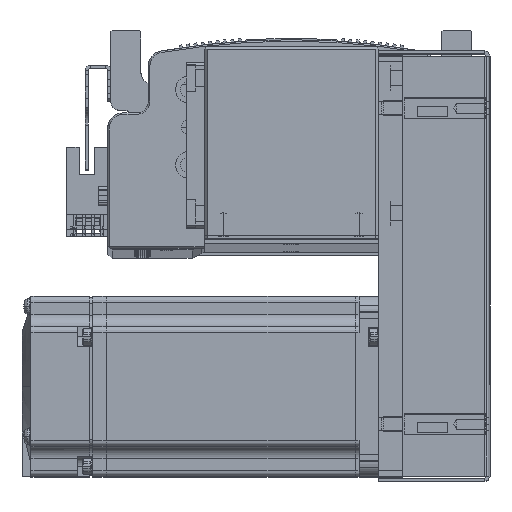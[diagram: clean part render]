
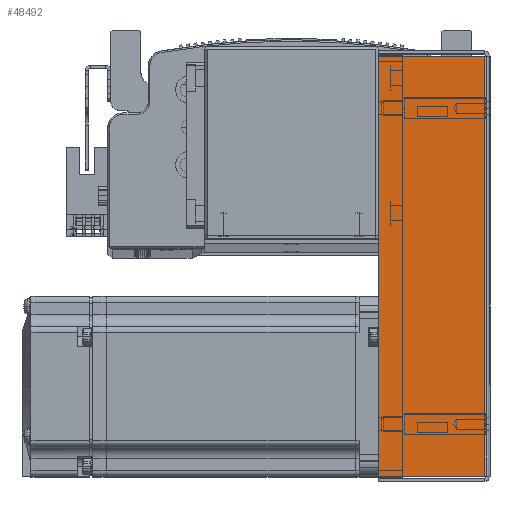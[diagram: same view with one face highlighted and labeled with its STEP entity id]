
A CAD part, top view. The second image highlights one B-rep face of the part: STEP entity #48492.
In plain terms, the highlighted planar face has unit normal (0, 0, 1).
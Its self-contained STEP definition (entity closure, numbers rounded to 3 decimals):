
#5330 = CARTESIAN_POINT ( 'NONE',  ( -69.793, 0.737, 33.5 ) ) ;
#5423 = CARTESIAN_POINT ( 'NONE',  ( 69.793, 36., 33.5 ) ) ;
#5445 = CARTESIAN_POINT ( 'NONE',  ( -69.793, 36., 33.5 ) ) ;
#5501 = CARTESIAN_POINT ( 'NONE',  ( 69.793, 0.737, 33.5 ) ) ;
#25155 = EDGE_CURVE ( 'NONE', #89827, #89834, #25574, .T. ) ;
#25262 = EDGE_CURVE ( 'NONE', #89827, #89756, #25703, .T. ) ;
#25266 = EDGE_CURVE ( 'NONE', #89756, #89821, #25718, .T. ) ;
#25320 = EDGE_CURVE ( 'NONE', #89834, #89821, #25753, .T. ) ;
#25574 = LINE ( 'NONE', #70314, #25578 ) ;
#25578 = VECTOR ( 'NONE', #70316, 1000. ) ;
#25606 = VECTOR ( 'NONE', #70624, 1000. ) ;
#25629 = VECTOR ( 'NONE', #70599, 1000. ) ;
#25703 = LINE ( 'NONE', #70594, #25629 ) ;
#25718 = LINE ( 'NONE', #70611, #25606 ) ;
#25753 = LINE ( 'NONE', #70860, #25825 ) ;
#25825 = VECTOR ( 'NONE', #70801, 1000. ) ;
#43547 = EDGE_LOOP ( 'NONE', ( #86079, #86099, #86127, #85957 ) ) ;
#48492 = ADVANCED_FACE ( 'NONE', ( #60245 ), #60833, .F. ) ;
#60245 = FACE_OUTER_BOUND ( 'NONE', #43547, .T. ) ;
#60833 = PLANE ( 'NONE',  #63162 ) ;
#60845 = DIRECTION ( 'NONE',  ( 0., 0., -1. ) ) ;
#60859 = CARTESIAN_POINT ( 'NONE',  ( 0., 0., 33.5 ) ) ;
#60877 = DIRECTION ( 'NONE',  ( -1., 0., 0. ) ) ;
#63162 = AXIS2_PLACEMENT_3D ( 'NONE', #60859, #60845, #60877 ) ;
#70314 = CARTESIAN_POINT ( 'NONE',  ( 69.793, 0., 33.5 ) ) ;
#70316 = DIRECTION ( 'NONE',  ( 0., 1., 0. ) ) ;
#70594 = CARTESIAN_POINT ( 'NONE',  ( -71.5, 0.737, 33.5 ) ) ;
#70599 = DIRECTION ( 'NONE',  ( -1., 0., 0. ) ) ;
#70611 = CARTESIAN_POINT ( 'NONE',  ( -69.793, 0., 33.5 ) ) ;
#70624 = DIRECTION ( 'NONE',  ( 0., 1., 0. ) ) ;
#70801 = DIRECTION ( 'NONE',  ( -1., 0., 0. ) ) ;
#70860 = CARTESIAN_POINT ( 'NONE',  ( 0., 36., 33.5 ) ) ;
#85957 = ORIENTED_EDGE ( 'NONE', *, *, #25266, .F. ) ;
#86079 = ORIENTED_EDGE ( 'NONE', *, *, #25262, .F. ) ;
#86099 = ORIENTED_EDGE ( 'NONE', *, *, #25155, .T. ) ;
#86127 = ORIENTED_EDGE ( 'NONE', *, *, #25320, .T. ) ;
#89756 = VERTEX_POINT ( 'NONE', #5330 ) ;
#89821 = VERTEX_POINT ( 'NONE', #5445 ) ;
#89827 = VERTEX_POINT ( 'NONE', #5501 ) ;
#89834 = VERTEX_POINT ( 'NONE', #5423 ) ;
